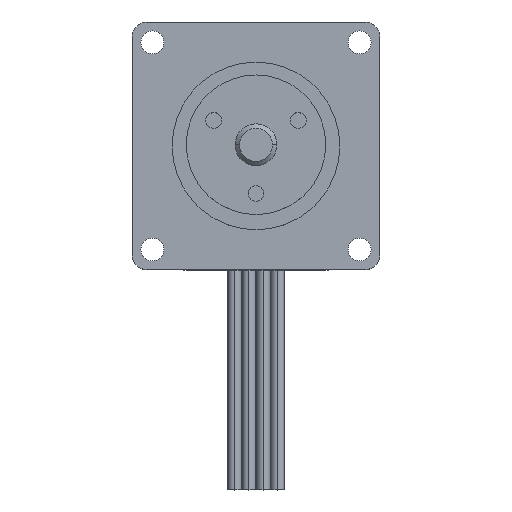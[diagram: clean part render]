
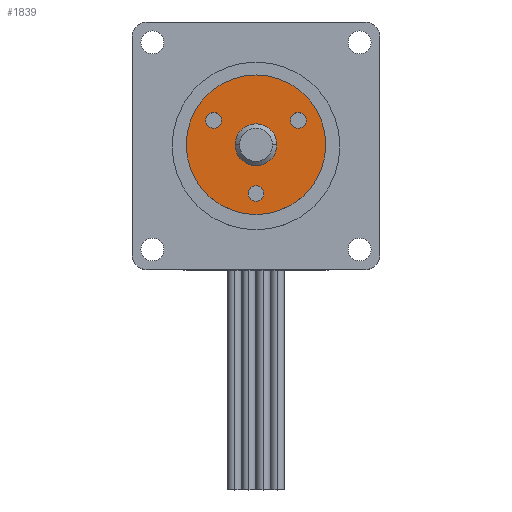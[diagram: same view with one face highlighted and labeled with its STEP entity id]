
A CAD part, top view. The second image highlights one B-rep face of the part: STEP entity #1839.
In plain terms, the highlighted planar face has unit normal (0, 0, 1).
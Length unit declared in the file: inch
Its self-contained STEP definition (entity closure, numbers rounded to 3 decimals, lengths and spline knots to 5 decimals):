
#17 = EDGE_CURVE ( 'NONE', #3142, #3005, #280, .T. ) ;
#75 = ORIENTED_EDGE ( 'NONE', *, *, #2547, .F. ) ;
#88 = EDGE_CURVE ( 'NONE', #345, #1937, #2620, .T. ) ;
#168 = VERTEX_POINT ( 'NONE', #1588 ) ;
#220 = DIRECTION ( 'NONE',  ( 1., 0., 0. ) ) ;
#241 = FACE_BOUND ( 'NONE', #972, .T. ) ;
#280 = CIRCLE ( 'NONE', #3164, 0.07008 ) ;
#283 = DIRECTION ( 'NONE',  ( 1., 0., 0. ) ) ;
#288 = DIRECTION ( 'NONE',  ( 0., 0., 1. ) ) ;
#294 = CARTESIAN_POINT ( 'NONE',  ( -0.30881, 0.21875, 0. ) ) ;
#324 = AXIS2_PLACEMENT_3D ( 'NONE', #814, #2826, #220 ) ;
#342 = EDGE_CURVE ( 'NONE', #3005, #3142, #1119, .T. ) ;
#345 = VERTEX_POINT ( 'NONE', #2514 ) ;
#372 = VERTEX_POINT ( 'NONE', #3504 ) ;
#377 = AXIS2_PLACEMENT_3D ( 'NONE', #1161, #3750, #1105 ) ;
#507 = CIRCLE ( 'NONE', #2358, 0.1875 ) ;
#525 = CARTESIAN_POINT ( 'NONE',  ( -0.37889, 0.21875, 0. ) ) ;
#594 = VERTEX_POINT ( 'NONE', #3687 ) ;
#689 = ORIENTED_EDGE ( 'NONE', *, *, #342, .F. ) ;
#748 = DIRECTION ( 'NONE',  ( 1., 0., 0. ) ) ;
#788 = ORIENTED_EDGE ( 'NONE', *, *, #849, .T. ) ;
#799 = DIRECTION ( 'NONE',  ( 0., 0., 1. ) ) ;
#814 = CARTESIAN_POINT ( 'NONE',  ( 0., -0.4375, 0. ) ) ;
#848 = CARTESIAN_POINT ( 'NONE',  ( 0., 0., 0. ) ) ;
#849 = EDGE_CURVE ( 'NONE', #1937, #345, #1757, .T. ) ;
#864 = AXIS2_PLACEMENT_3D ( 'NONE', #1781, #3188, #1146 ) ;
#891 = ORIENTED_EDGE ( 'NONE', *, *, #88, .T. ) ;
#950 = EDGE_LOOP ( 'NONE', ( #3102, #3358 ) ) ;
#952 = DIRECTION ( 'NONE',  ( 0., 0., -1. ) ) ;
#972 = EDGE_LOOP ( 'NONE', ( #3433, #2847 ) ) ;
#1105 = DIRECTION ( 'NONE',  ( 1., 0., 0. ) ) ;
#1119 = CIRCLE ( 'NONE', #1749, 0.07008 ) ;
#1146 = DIRECTION ( 'NONE',  ( 1., 0., 0. ) ) ;
#1161 = CARTESIAN_POINT ( 'NONE',  ( -0.37889, 0.21875, 0. ) ) ;
#1446 = VERTEX_POINT ( 'NONE', #1959 ) ;
#1476 = DIRECTION ( 'NONE',  ( 1., 0., 0. ) ) ;
#1491 = DIRECTION ( 'NONE',  ( 0., 0., 1. ) ) ;
#1519 = CARTESIAN_POINT ( 'NONE',  ( -0.625, 0., 0. ) ) ;
#1569 = EDGE_LOOP ( 'NONE', ( #3680, #75 ) ) ;
#1588 = CARTESIAN_POINT ( 'NONE',  ( 0.1875, 0., 0. ) ) ;
#1604 = DIRECTION ( 'NONE',  ( 0., 0., 1. ) ) ;
#1672 = EDGE_LOOP ( 'NONE', ( #689, #2986 ) ) ;
#1692 = AXIS2_PLACEMENT_3D ( 'NONE', #525, #3752, #3170 ) ;
#1721 = FACE_BOUND ( 'NONE', #1672, .T. ) ;
#1749 = AXIS2_PLACEMENT_3D ( 'NONE', #3134, #1604, #748 ) ;
#1757 = CIRCLE ( 'NONE', #3715, 0.625 ) ;
#1781 = CARTESIAN_POINT ( 'NONE',  ( 0., -0.4375, 0. ) ) ;
#1809 = CARTESIAN_POINT ( 'NONE',  ( 0.37889, 0.21875, 0. ) ) ;
#1810 = CIRCLE ( 'NONE', #864, 0.07008 ) ;
#1819 = CIRCLE ( 'NONE', #2539, 0.1875 ) ;
#1839 = ADVANCED_FACE ( 'NONE', ( #3753, #1721, #2870, #241, #2336 ), #2040, .F. ) ;
#1889 = DIRECTION ( 'NONE',  ( 1., 0., 0. ) ) ;
#1937 = VERTEX_POINT ( 'NONE', #1519 ) ;
#1959 = CARTESIAN_POINT ( 'NONE',  ( -0.1875, 0., 0. ) ) ;
#2040 = PLANE ( 'NONE',  #3705 ) ;
#2065 = CARTESIAN_POINT ( 'NONE',  ( 0., 0., 0. ) ) ;
#2324 = VERTEX_POINT ( 'NONE', #2987 ) ;
#2336 = FACE_OUTER_BOUND ( 'NONE', #3662, .T. ) ;
#2358 = AXIS2_PLACEMENT_3D ( 'NONE', #2065, #799, #2868 ) ;
#2375 = DIRECTION ( 'NONE',  ( 1., 0., 0. ) ) ;
#2380 = CARTESIAN_POINT ( 'NONE',  ( 0., 0., 0. ) ) ;
#2502 = CARTESIAN_POINT ( 'NONE',  ( 0., 0., 0. ) ) ;
#2514 = CARTESIAN_POINT ( 'NONE',  ( 0.625, 0., 0. ) ) ;
#2539 = AXIS2_PLACEMENT_3D ( 'NONE', #2502, #3293, #1889 ) ;
#2547 = EDGE_CURVE ( 'NONE', #594, #2690, #3343, .T. ) ;
#2598 = CIRCLE ( 'NONE', #324, 0.07008 ) ;
#2617 = CARTESIAN_POINT ( 'NONE',  ( 0., 0., 0. ) ) ;
#2620 = CIRCLE ( 'NONE', #3351, 0.625 ) ;
#2690 = VERTEX_POINT ( 'NONE', #294 ) ;
#2697 = CARTESIAN_POINT ( 'NONE',  ( 0.30881, 0.21875, 0. ) ) ;
#2826 = DIRECTION ( 'NONE',  ( 0., 0., 1. ) ) ;
#2827 = CIRCLE ( 'NONE', #377, 0.07008 ) ;
#2847 = ORIENTED_EDGE ( 'NONE', *, *, #2961, .F. ) ;
#2868 = DIRECTION ( 'NONE',  ( 1., 0., 0. ) ) ;
#2870 = FACE_BOUND ( 'NONE', #950, .T. ) ;
#2961 = EDGE_CURVE ( 'NONE', #1446, #168, #507, .T. ) ;
#2971 = DIRECTION ( 'NONE',  ( -1., 0., 0. ) ) ;
#2986 = ORIENTED_EDGE ( 'NONE', *, *, #17, .F. ) ;
#2987 = CARTESIAN_POINT ( 'NONE',  ( -0.07008, -0.4375, 0. ) ) ;
#3004 = EDGE_CURVE ( 'NONE', #2324, #372, #1810, .T. ) ;
#3005 = VERTEX_POINT ( 'NONE', #3150 ) ;
#3008 = EDGE_CURVE ( 'NONE', #2690, #594, #2827, .T. ) ;
#3102 = ORIENTED_EDGE ( 'NONE', *, *, #3348, .F. ) ;
#3134 = CARTESIAN_POINT ( 'NONE',  ( 0.37889, 0.21875, 0. ) ) ;
#3142 = VERTEX_POINT ( 'NONE', #2697 ) ;
#3150 = CARTESIAN_POINT ( 'NONE',  ( 0.44896, 0.21875, 0. ) ) ;
#3164 = AXIS2_PLACEMENT_3D ( 'NONE', #1809, #1491, #283 ) ;
#3170 = DIRECTION ( 'NONE',  ( 1., 0., 0. ) ) ;
#3188 = DIRECTION ( 'NONE',  ( 0., 0., 1. ) ) ;
#3253 = DIRECTION ( 'NONE',  ( 0., 0., 1. ) ) ;
#3293 = DIRECTION ( 'NONE',  ( 0., 0., 1. ) ) ;
#3343 = CIRCLE ( 'NONE', #1692, 0.07008 ) ;
#3348 = EDGE_CURVE ( 'NONE', #372, #2324, #2598, .T. ) ;
#3351 = AXIS2_PLACEMENT_3D ( 'NONE', #848, #3253, #1476 ) ;
#3358 = ORIENTED_EDGE ( 'NONE', *, *, #3004, .F. ) ;
#3433 = ORIENTED_EDGE ( 'NONE', *, *, #3696, .F. ) ;
#3504 = CARTESIAN_POINT ( 'NONE',  ( 0.07008, -0.4375, 0. ) ) ;
#3662 = EDGE_LOOP ( 'NONE', ( #891, #788 ) ) ;
#3680 = ORIENTED_EDGE ( 'NONE', *, *, #3008, .F. ) ;
#3687 = CARTESIAN_POINT ( 'NONE',  ( -0.44896, 0.21875, 0. ) ) ;
#3696 = EDGE_CURVE ( 'NONE', #168, #1446, #1819, .T. ) ;
#3705 = AXIS2_PLACEMENT_3D ( 'NONE', #2380, #952, #2971 ) ;
#3715 = AXIS2_PLACEMENT_3D ( 'NONE', #2617, #288, #2375 ) ;
#3750 = DIRECTION ( 'NONE',  ( 0., 0., 1. ) ) ;
#3752 = DIRECTION ( 'NONE',  ( 0., 0., 1. ) ) ;
#3753 = FACE_BOUND ( 'NONE', #1569, .T. ) ;
